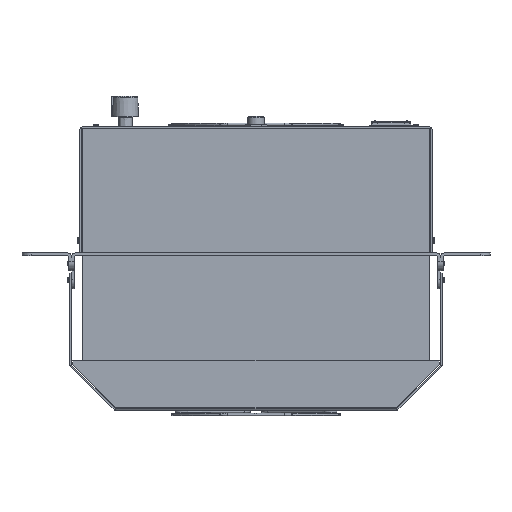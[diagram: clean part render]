
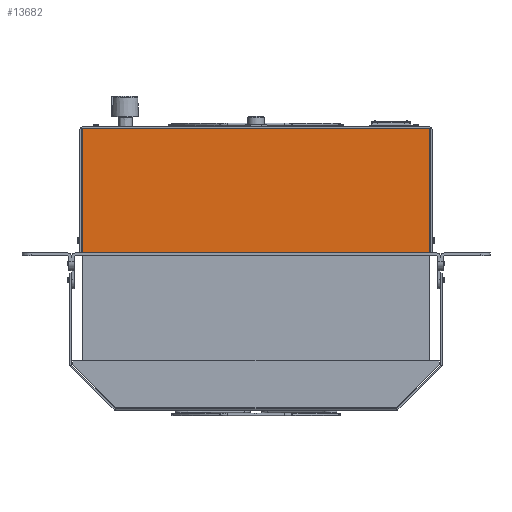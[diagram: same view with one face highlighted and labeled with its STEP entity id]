
A CAD part, front view. The second image highlights one B-rep face of the part: STEP entity #13682.
In plain terms, the highlighted planar face has unit normal (0, -1, 0).
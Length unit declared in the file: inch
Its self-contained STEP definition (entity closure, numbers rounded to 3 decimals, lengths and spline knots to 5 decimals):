
#272=VECTOR('',#16507,1.);
#274=VECTOR('',#16509,1.);
#275=VECTOR('',#16510,1.);
#276=VECTOR('',#16511,1.);
#1334=LINE('',#21077,#272);
#1336=LINE('',#21081,#274);
#1337=LINE('',#21082,#275);
#1338=LINE('',#21086,#276);
#2440=PLANE('',#14754);
#3320=VERTEX_POINT('',#21083);
#3321=VERTEX_POINT('',#21084);
#3322=VERTEX_POINT('',#21085);
#3323=VERTEX_POINT('',#21087);
#5349=EDGE_CURVE('',#3320,#3321,#1337,.T.);
#5350=EDGE_CURVE('',#3322,#3320,#1334,.T.);
#5351=EDGE_CURVE('',#3323,#3322,#1338,.T.);
#5352=EDGE_CURVE('',#3323,#3321,#1336,.T.);
#7376=ORIENTED_EDGE('',*,*,#5349,.F.);
#7377=ORIENTED_EDGE('',*,*,#5350,.F.);
#7378=ORIENTED_EDGE('',*,*,#5351,.F.);
#7379=ORIENTED_EDGE('',*,*,#5352,.T.);
#11117=EDGE_LOOP('',(#7376,#7377,#7378,#7379));
#12440=FACE_BOUND('',#11117,.T.);
#13682=ADVANCED_FACE('',(#12440),#2440,.T.);
#14754=AXIS2_PLACEMENT_3D('',#21076,#16506,$);
#16506=DIRECTION('',(0.,-1.,0.));
#16507=DIRECTION('',(0.,0.,-1.));
#16509=DIRECTION('',(0.,0.,-1.));
#16510=DIRECTION('',(-1.,0.,0.));
#16511=DIRECTION('',(1.,0.,0.));
#21076=CARTESIAN_POINT('',(0.,-9.,3.52745));
#21077=CARTESIAN_POINT('',(4.8206,-9.,3.52745));
#21081=CARTESIAN_POINT('',(-4.8206,-9.,3.52745));
#21082=CARTESIAN_POINT('',(0.,-9.,0.0747));
#21083=CARTESIAN_POINT('',(4.8206,-9.,0.0747));
#21084=CARTESIAN_POINT('',(-4.8206,-9.,0.0747));
#21085=CARTESIAN_POINT('',(4.8206,-9.,3.52745));
#21086=CARTESIAN_POINT('',(0.,-9.,3.52745));
#21087=CARTESIAN_POINT('',(-4.8206,-9.,3.52745));
